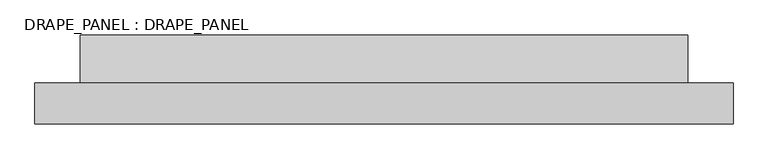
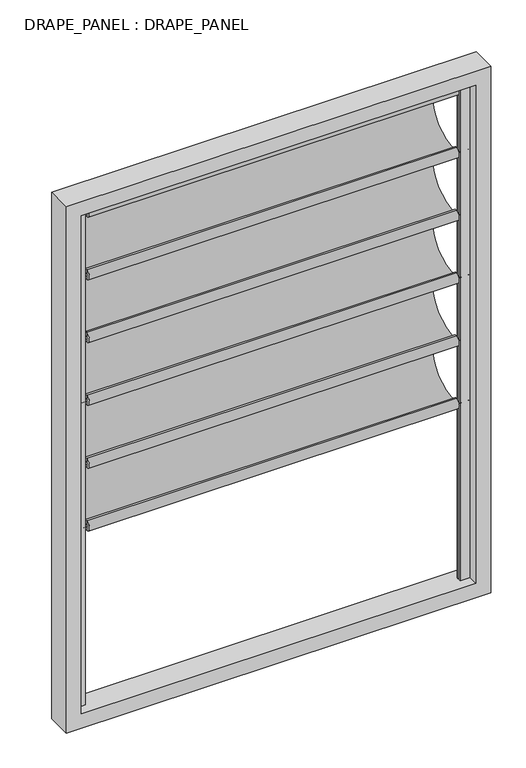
"""IFC4 building model written with IfcOpenShell, lengths in millimetres: plate geometry, DRAPE_PANEL : DRAPE_PANEL."""

from ifc_helpers import new_model, si_unit, point, frame, origin, place, context, project, spatial, polyline, circle_curve, ellipse_curve, trimmed, outline, extrude, source, transform, mapped, element, save
from ifc_brep_helpers import plane_surface, cylinder_surface, extruded_surface, advanced_brep


def drape_panel_drape_panel_c3b9369e(model_context):
    return source(origin(), model_context, "Body", "SolidModel", [
        advanced_brep(
        [(-790.0, 0.0, 1341.5019792), (-790.0, 0.0, 1346.5019792), (-790.0, 0.0, 1336.5019792), (790.0, 0.0, 1336.5019792), (790.0, 0.0, 1346.5019792), (790.0, 0.0, 1341.5019792), (740.0, 0.0, 1336.5019792), (740.0, 0.0, 1346.5019792), (740.0, 0.0, 1321.5019792), (740.0, 0.0, 1361.5019792), (-740.0, 0.0, 1321.5019792), (-740.0, 0.0, 1361.5019792), (-740.0, 0.0, 1336.5019792), (-740.0, 0.0, 1346.5019792)],
        [
            (0, 1),
            (1, 2, circle_curve(frame((-790.0, 0.0, 1341.5019792), z_axis=(-1.0, 0.0, 0.0), x_axis=(0.0, 0.0, 1.0)), 5.0)),
            (2, 0),
            (2, 1, circle_curve(frame((-790.0, 0.0, 1341.5019792), z_axis=(-1.0, 0.0, 0.0), x_axis=(0.0, 0.0, 1.0)), 5.0)),
            (3, 4, circle_curve(frame((790.0, 0.0, 1341.5019792), z_axis=(1.0, 0.0, 0.0), x_axis=(0.0, 0.0, 1.0)), 5.0)),
            (4, 5),
            (5, 3),
            (4, 3, circle_curve(frame((790.0, 0.0, 1341.5019792), z_axis=(1.0, 0.0, 0.0), x_axis=(0.0, 0.0, 1.0)), 5.0)),
            (6, 7, circle_curve(frame((740.0, 0.0, 1341.5019792), z_axis=(1.0, 0.0, 0.0), x_axis=(0.0, 0.0, 1.0)), 5.0)),
            (7, 4),
            (3, 6),
            (7, 6, circle_curve(frame((740.0, 0.0, 1341.5019792), z_axis=(1.0, 0.0, 0.0), x_axis=(0.0, 0.0, 1.0)), 5.0)),
            (8, 9, circle_curve(frame((740.0, 0.0, 1341.5019792), z_axis=(1.0, 0.0, 0.0), x_axis=(0.0, 0.0, 1.0)), 20.0)),
            (9, 7),
            (6, 8),
            (9, 8, circle_curve(frame((740.0, 0.0, 1341.5019792), z_axis=(1.0, 0.0, 0.0), x_axis=(0.0, 0.0, 1.0)), 20.0)),
            (10, 11, circle_curve(frame((-740.0, 0.0, 1341.5019792), z_axis=(1.0, 0.0, 0.0), x_axis=(0.0, 0.0, 1.0)), 20.0)),
            (11, 9),
            (8, 10),
            (11, 10, circle_curve(frame((-740.0, 0.0, 1341.5019792), z_axis=(1.0, 0.0, 0.0), x_axis=(0.0, 0.0, 1.0)), 20.0)),
            (12, 13, circle_curve(frame((-740.0, 0.0, 1341.5019792), z_axis=(1.0, 0.0, 0.0), x_axis=(0.0, 0.0, 1.0)), 5.0)),
            (13, 11),
            (10, 12),
            (13, 12, circle_curve(frame((-740.0, 0.0, 1341.5019792), z_axis=(1.0, 0.0, 0.0), x_axis=(0.0, 0.0, 1.0)), 5.0)),
            (1, 13),
            (12, 2),
        ],
        [
            plane_surface(frame((-790.0, 0.0, 1341.5019792), z_axis=(-1.0, 0.0, 0.0), x_axis=(0.0, 0.0, 1.0))),
            plane_surface(frame((790.0, 0.0, 1341.5019792), z_axis=(1.0, 0.0, 0.0), x_axis=(0.0, 0.0, 1.0))),
            cylinder_surface(frame((6238.8752301, 0.0, 1341.5019792), z_axis=(-1.0, 0.0, 0.0), x_axis=(0.0, 0.0, 1.0)), 5.0),
            plane_surface(frame((740.0, 0.0, 1341.5019792), z_axis=(1.0, 0.0, 0.0), x_axis=(0.0, 0.0, 1.0))),
            cylinder_surface(frame((6238.8752301, 0.0, 1341.5019792), z_axis=(-1.0, 0.0, 0.0), x_axis=(0.0, 0.0, 1.0)), 20.0),
            plane_surface(frame((-740.0, 0.0, 1341.5019792), z_axis=(-1.0, 0.0, 0.0), x_axis=(0.0, 0.0, 1.0))),
        ],
        [
            (0, [[1, 2, 3]]),
            (0, [[-3, 4, -1]]),
            (1, [[5, 6, 7]]),
            (1, [[8, -7, -6]]),
            (2, [[9, 10, -5, 11]]),
            (2, [[12, -11, -8, -10]]),
            (3, [[13, 14, -9, 15]]),
            (3, [[16, -15, -12, -14]]),
            (4, [[17, 18, -13, 19]]),
            (4, [[20, -19, -16, -18]]),
            (5, [[21, 22, -17, 23]]),
            (5, [[24, -23, -20, -22]]),
            (2, [[-2, 25, -21, 26]]),
            (2, [[-4, -26, -24, -25]]),
        ],
    ),
        advanced_brep(
        [(740.0, 0.0, 1341.5019792), (740.0, 0.0, 1338.5019792), (740.0, 0.0, 1078.7509896), (740.0, 0.0, 1075.7509896), (-740.0, 0.0, 1341.5019792), (-740.0, 0.0, 1075.7509896), (-740.0, 0.0, 1078.7509896), (-740.0, 0.0, 1338.5019792)],
        [
            (0, 1),
            (1, 2, ellipse_curve(frame((740.0, 0.0, 1208.6264844), z_axis=(-1.0, 0.0, 0.0), x_axis=(0.0, -1.0, 0.0)), 164.6884972, 129.8754948)),
            (2, 3),
            (3, 0, ellipse_curve(frame((740.0, 0.0, 1208.6264844), z_axis=(1.0, 0.0, 0.0), x_axis=(0.0, 1.0, 0.0)), 167.6884972, 132.8754948)),
            (4, 5, ellipse_curve(frame((-740.0, 0.0, 1208.6264844), z_axis=(-1.0, 0.0, 0.0), x_axis=(0.0, 0.0, -1.0)), 132.8754948, 167.6884972)),
            (5, 6),
            (6, 7, ellipse_curve(frame((-740.0, 0.0, 1208.6264844), z_axis=(1.0, 0.0, 0.0), x_axis=(0.0, 0.0, -1.0)), 129.8754948, 164.6884972)),
            (7, 4),
            (0, 4),
            (7, 1),
            (6, 2),
            (5, 3),
        ],
        [
            plane_surface(frame((740.0, 0.0, 1341.5019792), z_axis=(1.0, 0.0, 0.0), x_axis=(0.0, -1.3265195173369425e-12, -1.0))),
            plane_surface(frame((-740.0, 0.0, 1341.5019792), z_axis=(-1.0, 0.0, 0.0), x_axis=(0.0, 1.3265195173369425e-12, 1.0))),
            plane_surface(frame((740.0, 0.0, 1341.5019792), z_axis=(0.0, -1.0, 1.3265195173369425e-12), x_axis=(-1.0, 0.0, 0.0))),
            extruded_surface(trimmed(ellipse_curve(frame((-2220.0, 0.0, 1208.6264844), z_axis=(-1.0, 0.0, 0.0), x_axis=(0.0, 0.0, -1.0)), 129.8754948, 164.6884972), [point((-2220.0, 0.0, 1338.5019792))], [point((-2220.0, 0.0, 1078.7509896))], True, "CARTESIAN"), (1480.0, 0.0, 0.0), 1480.0),
            plane_surface(frame((740.0, 0.0, 1078.7509896), z_axis=(0.0, -1.0, 0.0), x_axis=(-1.0, 0.0, 0.0))),
            extruded_surface(trimmed(ellipse_curve(frame((-2220.0, 0.0, 1208.6264844), z_axis=(1.0, 0.0, 0.0), x_axis=(0.0, 0.0, -1.0)), 132.8754948, 167.6884972), [point((-2220.0, 0.0, 1075.7509896))], [point((-2220.0, 0.0, 1341.5019792))], True, "CARTESIAN"), (1480.0, 0.0, 0.0), 1480.0),
        ],
        [
            (0, [[1, 2, 3, 4]]),
            (1, [[5, 6, 7, 8]]),
            (2, [[-1, 9, -8, 10]]),
            (3, [[-2, -10, -7, 11]]),
            (4, [[-3, -11, -6, 12]]),
            (5, [[-4, -12, -5, -9]]),
        ],
    ),
        advanced_brep(
        [(-790.0, 0.0, 1607.2529688), (-790.0, 0.0, 1612.2529688), (-790.0, 0.0, 1602.2529688), (790.0, 0.0, 1602.2529688), (790.0, 0.0, 1612.2529688), (790.0, 0.0, 1607.2529688), (740.0, 0.0, 1602.2529688), (740.0, 0.0, 1612.2529688), (740.0, 0.0, 1587.2529688), (740.0, 0.0, 1627.2529688), (-740.0, 0.0, 1587.2529688), (-740.0, 0.0, 1627.2529688), (-740.0, 0.0, 1602.2529688), (-740.0, 0.0, 1612.2529688)],
        [
            (0, 1),
            (1, 2, circle_curve(frame((-790.0, 0.0, 1607.2529688), z_axis=(-1.0, 0.0, 0.0), x_axis=(0.0, 0.0, 1.0)), 5.0)),
            (2, 0),
            (2, 1, circle_curve(frame((-790.0, 0.0, 1607.2529688), z_axis=(-1.0, 0.0, 0.0), x_axis=(0.0, 0.0, 1.0)), 5.0)),
            (3, 4, circle_curve(frame((790.0, 0.0, 1607.2529688), z_axis=(1.0, 0.0, 0.0), x_axis=(0.0, 0.0, 1.0)), 5.0)),
            (4, 5),
            (5, 3),
            (4, 3, circle_curve(frame((790.0, 0.0, 1607.2529688), z_axis=(1.0, 0.0, 0.0), x_axis=(0.0, 0.0, 1.0)), 5.0)),
            (6, 7, circle_curve(frame((740.0, 0.0, 1607.2529688), z_axis=(1.0, 0.0, 0.0), x_axis=(0.0, 0.0, 1.0)), 5.0)),
            (7, 4),
            (3, 6),
            (7, 6, circle_curve(frame((740.0, 0.0, 1607.2529688), z_axis=(1.0, 0.0, 0.0), x_axis=(0.0, 0.0, 1.0)), 5.0)),
            (8, 9, circle_curve(frame((740.0, 0.0, 1607.2529688), z_axis=(1.0, 0.0, 0.0), x_axis=(0.0, 0.0, 1.0)), 20.0)),
            (9, 7),
            (6, 8),
            (9, 8, circle_curve(frame((740.0, 0.0, 1607.2529688), z_axis=(1.0, 0.0, 0.0), x_axis=(0.0, 0.0, 1.0)), 20.0)),
            (10, 11, circle_curve(frame((-740.0, 0.0, 1607.2529688), z_axis=(1.0, 0.0, 0.0), x_axis=(0.0, 0.0, 1.0)), 20.0)),
            (11, 9),
            (8, 10),
            (11, 10, circle_curve(frame((-740.0, 0.0, 1607.2529688), z_axis=(1.0, 0.0, 0.0), x_axis=(0.0, 0.0, 1.0)), 20.0)),
            (12, 13, circle_curve(frame((-740.0, 0.0, 1607.2529688), z_axis=(1.0, 0.0, 0.0), x_axis=(0.0, 0.0, 1.0)), 5.0)),
            (13, 11),
            (10, 12),
            (13, 12, circle_curve(frame((-740.0, 0.0, 1607.2529688), z_axis=(1.0, 0.0, 0.0), x_axis=(0.0, 0.0, 1.0)), 5.0)),
            (1, 13),
            (12, 2),
        ],
        [
            plane_surface(frame((-790.0, 0.0, 1607.2529688), z_axis=(-1.0, 0.0, 0.0), x_axis=(0.0, 0.0, 1.0))),
            plane_surface(frame((790.0, 0.0, 1607.2529688), z_axis=(1.0, 0.0, 0.0), x_axis=(0.0, 0.0, 1.0))),
            cylinder_surface(frame((6238.8752301, 0.0, 1607.2529688), z_axis=(-1.0, 0.0, 0.0), x_axis=(0.0, 0.0, 1.0)), 5.0),
            plane_surface(frame((740.0, 0.0, 1607.2529688), z_axis=(1.0, 0.0, 0.0), x_axis=(0.0, 0.0, 1.0))),
            cylinder_surface(frame((6238.8752301, 0.0, 1607.2529688), z_axis=(-1.0, 0.0, 0.0), x_axis=(0.0, 0.0, 1.0)), 20.0),
            plane_surface(frame((-740.0, 0.0, 1607.2529688), z_axis=(-1.0, 0.0, 0.0), x_axis=(0.0, 0.0, 1.0))),
        ],
        [
            (0, [[1, 2, 3]]),
            (0, [[-3, 4, -1]]),
            (1, [[5, 6, 7]]),
            (1, [[8, -7, -6]]),
            (2, [[9, 10, -5, 11]]),
            (2, [[12, -11, -8, -10]]),
            (3, [[13, 14, -9, 15]]),
            (3, [[16, -15, -12, -14]]),
            (4, [[17, 18, -13, 19]]),
            (4, [[20, -19, -16, -18]]),
            (5, [[21, 22, -17, 23]]),
            (5, [[24, -23, -20, -22]]),
            (2, [[-2, 25, -21, 26]]),
            (2, [[-4, -26, -24, -25]]),
        ],
    ),
        advanced_brep(
        [(740.0, 0.0, 1607.2529688), (740.0, 0.0, 1604.2529688), (740.0, 0.0, 1344.5019792), (740.0, 0.0, 1341.5019792), (-740.0, 0.0, 1607.2529688), (-740.0, 0.0, 1341.5019792), (-740.0, 0.0, 1344.5019792), (-740.0, 0.0, 1604.2529688)],
        [
            (0, 1),
            (1, 2, ellipse_curve(frame((740.0, 0.0, 1474.377474), z_axis=(-1.0, 0.0, 0.0), x_axis=(0.0, -1.0, 0.0)), 164.6884972, 129.8754948)),
            (2, 3),
            (3, 0, ellipse_curve(frame((740.0, 0.0, 1474.377474), z_axis=(1.0, 0.0, 0.0), x_axis=(0.0, 1.0, 0.0)), 167.6884972, 132.8754948)),
            (4, 5, ellipse_curve(frame((-740.0, 0.0, 1474.377474), z_axis=(-1.0, 0.0, 0.0), x_axis=(0.0, 0.0, -1.0)), 132.8754948, 167.6884972)),
            (5, 6),
            (6, 7, ellipse_curve(frame((-740.0, 0.0, 1474.377474), z_axis=(1.0, 0.0, 0.0), x_axis=(0.0, 0.0, -1.0)), 129.8754948, 164.6884972)),
            (7, 4),
            (0, 4),
            (7, 1),
            (6, 2),
            (5, 3),
        ],
        [
            plane_surface(frame((740.0, 0.0, 1607.2529688), z_axis=(1.0, 0.0, 0.0), x_axis=(0.0, -1.3265195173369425e-12, -1.0))),
            plane_surface(frame((-740.0, 0.0, 1607.2529688), z_axis=(-1.0, 0.0, 0.0), x_axis=(0.0, 1.3265195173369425e-12, 1.0))),
            plane_surface(frame((740.0, 0.0, 1607.2529688), z_axis=(0.0, -1.0, 1.3265195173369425e-12), x_axis=(-1.0, 0.0, 0.0))),
            extruded_surface(trimmed(ellipse_curve(frame((-2220.0, 0.0, 1474.377474), z_axis=(-1.0, 0.0, 0.0), x_axis=(0.0, 0.0, -1.0)), 129.8754948, 164.6884972), [point((-2220.0, 0.0, 1604.2529688))], [point((-2220.0, 0.0, 1344.5019792))], True, "CARTESIAN"), (1480.0, 0.0, 0.0), 1480.0),
            plane_surface(frame((740.0, 0.0, 1344.5019792), z_axis=(0.0, -1.0, 0.0), x_axis=(-1.0, 0.0, 0.0))),
            extruded_surface(trimmed(ellipse_curve(frame((-2220.0, 0.0, 1474.377474), z_axis=(1.0, 0.0, 0.0), x_axis=(0.0, 0.0, -1.0)), 132.8754948, 167.6884972), [point((-2220.0, 0.0, 1341.5019792))], [point((-2220.0, 0.0, 1607.2529688))], True, "CARTESIAN"), (1480.0, 0.0, 0.0), 1480.0),
        ],
        [
            (0, [[1, 2, 3, 4]]),
            (1, [[5, 6, 7, 8]]),
            (2, [[-1, 9, -8, 10]]),
            (3, [[-2, -10, -7, 11]]),
            (4, [[-3, -11, -6, 12]]),
            (5, [[-4, -12, -5, -9]]),
        ],
    ),
        advanced_brep(
        [(-790.0, 0.0, 1873.0039583), (-790.0, 0.0, 1878.0039583), (-790.0, 0.0, 1868.0039583), (790.0, 0.0, 1868.0039583), (790.0, 0.0, 1878.0039583), (790.0, 0.0, 1873.0039583), (740.0, 0.0, 1868.0039583), (740.0, 0.0, 1878.0039583), (740.0, 0.0, 1853.0039583), (740.0, 0.0, 1893.0039583), (-740.0, 0.0, 1853.0039583), (-740.0, 0.0, 1893.0039583), (-740.0, 0.0, 1868.0039583), (-740.0, 0.0, 1878.0039583)],
        [
            (0, 1),
            (1, 2, circle_curve(frame((-790.0, 0.0, 1873.0039583), z_axis=(-1.0, 0.0, 0.0), x_axis=(0.0, 0.0, 1.0)), 5.0)),
            (2, 0),
            (2, 1, circle_curve(frame((-790.0, 0.0, 1873.0039583), z_axis=(-1.0, 0.0, 0.0), x_axis=(0.0, 0.0, 1.0)), 5.0)),
            (3, 4, circle_curve(frame((790.0, 0.0, 1873.0039583), z_axis=(1.0, 0.0, 0.0), x_axis=(0.0, 0.0, 1.0)), 5.0)),
            (4, 5),
            (5, 3),
            (4, 3, circle_curve(frame((790.0, 0.0, 1873.0039583), z_axis=(1.0, 0.0, 0.0), x_axis=(0.0, 0.0, 1.0)), 5.0)),
            (6, 7, circle_curve(frame((740.0, 0.0, 1873.0039583), z_axis=(1.0, 0.0, 0.0), x_axis=(0.0, 0.0, 1.0)), 5.0)),
            (7, 4),
            (3, 6),
            (7, 6, circle_curve(frame((740.0, 0.0, 1873.0039583), z_axis=(1.0, 0.0, 0.0), x_axis=(0.0, 0.0, 1.0)), 5.0)),
            (8, 9, circle_curve(frame((740.0, 0.0, 1873.0039583), z_axis=(1.0, 0.0, 0.0), x_axis=(0.0, 0.0, 1.0)), 20.0)),
            (9, 7),
            (6, 8),
            (9, 8, circle_curve(frame((740.0, 0.0, 1873.0039583), z_axis=(1.0, 0.0, 0.0), x_axis=(0.0, 0.0, 1.0)), 20.0)),
            (10, 11, circle_curve(frame((-740.0, 0.0, 1873.0039583), z_axis=(1.0, 0.0, 0.0), x_axis=(0.0, 0.0, 1.0)), 20.0)),
            (11, 9),
            (8, 10),
            (11, 10, circle_curve(frame((-740.0, 0.0, 1873.0039583), z_axis=(1.0, 0.0, 0.0), x_axis=(0.0, 0.0, 1.0)), 20.0)),
            (12, 13, circle_curve(frame((-740.0, 0.0, 1873.0039583), z_axis=(1.0, 0.0, 0.0), x_axis=(0.0, 0.0, 1.0)), 5.0)),
            (13, 11),
            (10, 12),
            (13, 12, circle_curve(frame((-740.0, 0.0, 1873.0039583), z_axis=(1.0, 0.0, 0.0), x_axis=(0.0, 0.0, 1.0)), 5.0)),
            (1, 13),
            (12, 2),
        ],
        [
            plane_surface(frame((-790.0, 0.0, 1873.0039583), z_axis=(-1.0, 0.0, 0.0), x_axis=(0.0, 0.0, 1.0))),
            plane_surface(frame((790.0, 0.0, 1873.0039583), z_axis=(1.0, 0.0, 0.0), x_axis=(0.0, 0.0, 1.0))),
            cylinder_surface(frame((6238.8752301, 0.0, 1873.0039583), z_axis=(-1.0, 0.0, 0.0), x_axis=(0.0, 0.0, 1.0)), 5.0),
            plane_surface(frame((740.0, 0.0, 1873.0039583), z_axis=(1.0, 0.0, 0.0), x_axis=(0.0, 0.0, 1.0))),
            cylinder_surface(frame((6238.8752301, 0.0, 1873.0039583), z_axis=(-1.0, 0.0, 0.0), x_axis=(0.0, 0.0, 1.0)), 20.0),
            plane_surface(frame((-740.0, 0.0, 1873.0039583), z_axis=(-1.0, 0.0, 0.0), x_axis=(0.0, 0.0, 1.0))),
        ],
        [
            (0, [[1, 2, 3]]),
            (0, [[-3, 4, -1]]),
            (1, [[5, 6, 7]]),
            (1, [[8, -7, -6]]),
            (2, [[9, 10, -5, 11]]),
            (2, [[12, -11, -8, -10]]),
            (3, [[13, 14, -9, 15]]),
            (3, [[16, -15, -12, -14]]),
            (4, [[17, 18, -13, 19]]),
            (4, [[20, -19, -16, -18]]),
            (5, [[21, 22, -17, 23]]),
            (5, [[24, -23, -20, -22]]),
            (2, [[-2, 25, -21, 26]]),
            (2, [[-4, -26, -24, -25]]),
        ],
    ),
        advanced_brep(
        [(740.0, 0.0, 1873.0039583), (740.0, 0.0, 1870.0039583), (740.0, 0.0, 1610.2529688), (740.0, 0.0, 1607.2529688), (-740.0, 0.0, 1873.0039583), (-740.0, 0.0, 1607.2529688), (-740.0, 0.0, 1610.2529687), (-740.0, 0.0, 1870.0039583)],
        [
            (0, 1),
            (1, 2, ellipse_curve(frame((740.0, 0.0, 1740.1284635), z_axis=(-1.0, 0.0, 0.0), x_axis=(0.0, -1.0, 0.0)), 164.6884972, 129.8754948)),
            (2, 3),
            (3, 0, ellipse_curve(frame((740.0, 0.0, 1740.1284635), z_axis=(1.0, 0.0, 0.0), x_axis=(0.0, 1.0, 0.0)), 167.6884972, 132.8754948)),
            (4, 5, ellipse_curve(frame((-740.0, 0.0, 1740.1284635), z_axis=(-1.0, 0.0, 0.0), x_axis=(0.0, 0.0, -1.0)), 132.8754948, 167.6884972)),
            (5, 6),
            (6, 7, ellipse_curve(frame((-740.0, 0.0, 1740.1284635), z_axis=(1.0, 0.0, 0.0), x_axis=(0.0, 0.0, -1.0)), 129.8754948, 164.6884972)),
            (7, 4),
            (0, 4),
            (7, 1),
            (6, 2),
            (5, 3),
        ],
        [
            plane_surface(frame((740.0, 0.0, 1873.0039583), z_axis=(1.0, 0.0, 0.0), x_axis=(0.0, -1.3265195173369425e-12, -1.0))),
            plane_surface(frame((-740.0, 0.0, 1873.0039583), z_axis=(-1.0, 0.0, 0.0), x_axis=(0.0, 1.3265195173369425e-12, 1.0))),
            plane_surface(frame((740.0, 0.0, 1873.0039583), z_axis=(0.0, -1.0, 1.3265195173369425e-12), x_axis=(-1.0, 0.0, 0.0))),
            extruded_surface(trimmed(ellipse_curve(frame((-2220.0, 0.0, 1740.1284635), z_axis=(-1.0, 0.0, 0.0), x_axis=(0.0, 0.0, -1.0)), 129.8754948, 164.6884972), [point((-2220.0, 0.0, 1870.0039583))], [point((-2220.0, 0.0, 1610.2529687))], True, "CARTESIAN"), (1480.0, 0.0, 0.0), 1480.0),
            plane_surface(frame((740.0, 0.0, 1610.2529688), z_axis=(0.0, -1.0, 0.0), x_axis=(-1.0, 0.0, 0.0))),
            extruded_surface(trimmed(ellipse_curve(frame((-2220.0, 0.0, 1740.1284635), z_axis=(1.0, 0.0, 0.0), x_axis=(0.0, 0.0, -1.0)), 132.8754948, 167.6884972), [point((-2220.0, 0.0, 1607.2529688))], [point((-2220.0, 0.0, 1873.0039583))], True, "CARTESIAN"), (1480.0, 0.0, 0.0), 1480.0),
        ],
        [
            (0, [[1, 2, 3, 4]]),
            (1, [[5, 6, 7, 8]]),
            (2, [[-1, 9, -8, 10]]),
            (3, [[-2, -10, -7, 11]]),
            (4, [[-3, -11, -6, 12]]),
            (5, [[-4, -12, -5, -9]]),
        ],
    ),
        advanced_brep(
        [(-790.0, 0.0, 1075.7509896), (-790.0, 0.0, 1080.7509896), (-790.0, 0.0, 1070.7509896), (790.0, 0.0, 1070.7509896), (790.0, 0.0, 1080.7509896), (790.0, 0.0, 1075.7509896), (740.0, 0.0, 1070.7509896), (740.0, 0.0, 1080.7509896), (740.0, 0.0, 1055.7509896), (740.0, 0.0, 1095.7509896), (-740.0, 0.0, 1055.7509896), (-740.0, 0.0, 1095.7509896), (-740.0, 0.0, 1070.7509896), (-740.0, 0.0, 1080.7509896)],
        [
            (0, 1),
            (1, 2, circle_curve(frame((-790.0, 0.0, 1075.7509896), z_axis=(-1.0, 0.0, 0.0), x_axis=(0.0, 0.0, 1.0)), 5.0)),
            (2, 0),
            (2, 1, circle_curve(frame((-790.0, 0.0, 1075.7509896), z_axis=(-1.0, 0.0, 0.0), x_axis=(0.0, 0.0, 1.0)), 5.0)),
            (3, 4, circle_curve(frame((790.0, 0.0, 1075.7509896), z_axis=(1.0, 0.0, 0.0), x_axis=(0.0, 0.0, 1.0)), 5.0)),
            (4, 5),
            (5, 3),
            (4, 3, circle_curve(frame((790.0, 0.0, 1075.7509896), z_axis=(1.0, 0.0, 0.0), x_axis=(0.0, 0.0, 1.0)), 5.0)),
            (6, 7, circle_curve(frame((740.0, 0.0, 1075.7509896), z_axis=(1.0, 0.0, 0.0), x_axis=(0.0, 0.0, 1.0)), 5.0)),
            (7, 4),
            (3, 6),
            (7, 6, circle_curve(frame((740.0, 0.0, 1075.7509896), z_axis=(1.0, 0.0, 0.0), x_axis=(0.0, 0.0, 1.0)), 5.0)),
            (8, 9, circle_curve(frame((740.0, 0.0, 1075.7509896), z_axis=(1.0, 0.0, 0.0), x_axis=(0.0, 0.0, 1.0)), 20.0)),
            (9, 7),
            (6, 8),
            (9, 8, circle_curve(frame((740.0, 0.0, 1075.7509896), z_axis=(1.0, 0.0, 0.0), x_axis=(0.0, 0.0, 1.0)), 20.0)),
            (10, 11, circle_curve(frame((-740.0, 0.0, 1075.7509896), z_axis=(1.0, 0.0, 0.0), x_axis=(0.0, 0.0, 1.0)), 20.0)),
            (11, 9),
            (8, 10),
            (11, 10, circle_curve(frame((-740.0, 0.0, 1075.7509896), z_axis=(1.0, 0.0, 0.0), x_axis=(0.0, 0.0, 1.0)), 20.0)),
            (12, 13, circle_curve(frame((-740.0, 0.0, 1075.7509896), z_axis=(1.0, 0.0, 0.0), x_axis=(0.0, 0.0, 1.0)), 5.0)),
            (13, 11),
            (10, 12),
            (13, 12, circle_curve(frame((-740.0, 0.0, 1075.7509896), z_axis=(1.0, 0.0, 0.0), x_axis=(0.0, 0.0, 1.0)), 5.0)),
            (1, 13),
            (12, 2),
        ],
        [
            plane_surface(frame((-790.0, 0.0, 1075.7509896), z_axis=(-1.0, 0.0, 0.0), x_axis=(0.0, 0.0, 1.0))),
            plane_surface(frame((790.0, 0.0, 1075.7509896), z_axis=(1.0, 0.0, 0.0), x_axis=(0.0, 0.0, 1.0))),
            cylinder_surface(frame((6238.8752301, 0.0, 1075.7509896), z_axis=(-1.0, 0.0, 0.0), x_axis=(0.0, 0.0, 1.0)), 5.0),
            plane_surface(frame((740.0, 0.0, 1075.7509896), z_axis=(1.0, 0.0, 0.0), x_axis=(0.0, 0.0, 1.0))),
            cylinder_surface(frame((6238.8752301, 0.0, 1075.7509896), z_axis=(-1.0, 0.0, 0.0), x_axis=(0.0, 0.0, 1.0)), 20.0),
            plane_surface(frame((-740.0, 0.0, 1075.7509896), z_axis=(-1.0, 0.0, 0.0), x_axis=(0.0, 0.0, 1.0))),
        ],
        [
            (0, [[1, 2, 3]]),
            (0, [[-3, 4, -1]]),
            (1, [[5, 6, 7]]),
            (1, [[8, -7, -6]]),
            (2, [[9, 10, -5, 11]]),
            (2, [[12, -11, -8, -10]]),
            (3, [[13, 14, -9, 15]]),
            (3, [[16, -15, -12, -14]]),
            (4, [[17, 18, -13, 19]]),
            (4, [[20, -19, -16, -18]]),
            (5, [[21, 22, -17, 23]]),
            (5, [[24, -23, -20, -22]]),
            (2, [[-2, 25, -21, 26]]),
            (2, [[-4, -26, -24, -25]]),
        ],
    ),
        advanced_brep(
        [(740.0, 0.0, 1075.7509896), (740.0, 0.0, 1072.7509896), (740.0, 0.0, 813.0), (740.0, 0.0, 810.0), (-740.0, 0.0, 1075.7509896), (-740.0, 0.0, 810.0), (-740.0, 0.0, 813.0), (-740.0, 0.0, 1072.7509896)],
        [
            (0, 1),
            (1, 2, ellipse_curve(frame((740.0, 0.0, 942.8754948), z_axis=(-1.0, 0.0, 0.0), x_axis=(0.0, -1.0, 0.0)), 164.6884972, 129.8754948)),
            (2, 3),
            (3, 0, ellipse_curve(frame((740.0, 0.0, 942.8754948), z_axis=(1.0, 0.0, 0.0), x_axis=(0.0, 1.0, 0.0)), 167.6884972, 132.8754948)),
            (4, 5, ellipse_curve(frame((-740.0, 0.0, 942.8754948), z_axis=(-1.0, 0.0, 0.0), x_axis=(0.0, 0.0, -1.0)), 132.8754948, 167.6884972)),
            (5, 6),
            (6, 7, ellipse_curve(frame((-740.0, 0.0, 942.8754948), z_axis=(1.0, 0.0, 0.0), x_axis=(0.0, 0.0, -1.0)), 129.8754948, 164.6884972)),
            (7, 4),
            (0, 4),
            (7, 1),
            (6, 2),
            (5, 3),
        ],
        [
            plane_surface(frame((740.0, 0.0, 1075.7509896), z_axis=(1.0, 0.0, 0.0), x_axis=(0.0, -1.3265195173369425e-12, -1.0))),
            plane_surface(frame((-740.0, 0.0, 1075.7509896), z_axis=(-1.0, 0.0, 0.0), x_axis=(0.0, 1.3265195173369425e-12, 1.0))),
            plane_surface(frame((740.0, 0.0, 1075.7509896), z_axis=(0.0, -1.0, 1.3265195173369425e-12), x_axis=(-1.0, 0.0, 0.0))),
            extruded_surface(trimmed(ellipse_curve(frame((-2220.0, 0.0, 942.8754948), z_axis=(-1.0, 0.0, 0.0), x_axis=(0.0, 0.0, -1.0)), 129.8754948, 164.6884972), [point((-2220.0, 0.0, 1072.7509896))], [point((-2220.0, 0.0, 813.0))], True, "CARTESIAN"), (1480.0, 0.0, 0.0), 1480.0),
            plane_surface(frame((740.0, 0.0, 813.0), z_axis=(0.0, -1.0, 0.0), x_axis=(-1.0, 0.0, 0.0))),
            extruded_surface(trimmed(ellipse_curve(frame((-2220.0, 0.0, 942.8754948), z_axis=(1.0, 0.0, 0.0), x_axis=(0.0, 0.0, -1.0)), 132.8754948, 167.6884972), [point((-2220.0, 0.0, 810.0))], [point((-2220.0, 0.0, 1075.7509896))], True, "CARTESIAN"), (1480.0, 0.0, 0.0), 1480.0),
        ],
        [
            (0, [[1, 2, 3, 4]]),
            (1, [[5, 6, 7, 8]]),
            (2, [[-1, 9, -8, 10]]),
            (3, [[-2, -10, -7, 11]]),
            (4, [[-3, -11, -6, 12]]),
            (5, [[-4, -12, -5, -9]]),
        ],
    ),
        advanced_brep(
        [(-790.0, 0.0, 2138.7549479), (-790.0, 0.0, 2143.7549479), (-790.0, 0.0, 2133.7549479), (790.0, 0.0, 2133.7549479), (790.0, 0.0, 2143.7549479), (790.0, 0.0, 2138.7549479), (740.0, 0.0, 2133.7549479), (740.0, 0.0, 2143.7549479), (740.0, 0.0, 2118.7549479), (740.0, 0.0, 2158.7549479), (-740.0, 0.0, 2118.7549479), (-740.0, 0.0, 2158.7549479), (-740.0, 0.0, 2133.7549479), (-740.0, 0.0, 2143.7549479)],
        [
            (0, 1),
            (1, 2, circle_curve(frame((-790.0, 0.0, 2138.7549479), z_axis=(-1.0, 0.0, 0.0), x_axis=(0.0, 0.0, 1.0)), 5.0)),
            (2, 0),
            (2, 1, circle_curve(frame((-790.0, 0.0, 2138.7549479), z_axis=(-1.0, 0.0, 0.0), x_axis=(0.0, 0.0, 1.0)), 5.0)),
            (3, 4, circle_curve(frame((790.0, 0.0, 2138.7549479), z_axis=(1.0, 0.0, 0.0), x_axis=(0.0, 0.0, 1.0)), 5.0)),
            (4, 5),
            (5, 3),
            (4, 3, circle_curve(frame((790.0, 0.0, 2138.7549479), z_axis=(1.0, 0.0, 0.0), x_axis=(0.0, 0.0, 1.0)), 5.0)),
            (6, 7, circle_curve(frame((740.0, 0.0, 2138.7549479), z_axis=(1.0, 0.0, 0.0), x_axis=(0.0, 0.0, 1.0)), 5.0)),
            (7, 4),
            (3, 6),
            (7, 6, circle_curve(frame((740.0, 0.0, 2138.7549479), z_axis=(1.0, 0.0, 0.0), x_axis=(0.0, 0.0, 1.0)), 5.0)),
            (8, 9, circle_curve(frame((740.0, 0.0, 2138.7549479), z_axis=(1.0, 0.0, 0.0), x_axis=(0.0, 0.0, 1.0)), 20.0)),
            (9, 7),
            (6, 8),
            (9, 8, circle_curve(frame((740.0, 0.0, 2138.7549479), z_axis=(1.0, 0.0, 0.0), x_axis=(0.0, 0.0, 1.0)), 20.0)),
            (10, 11, circle_curve(frame((-740.0, 0.0, 2138.7549479), z_axis=(1.0, 0.0, 0.0), x_axis=(0.0, 0.0, 1.0)), 20.0)),
            (11, 9),
            (8, 10),
            (11, 10, circle_curve(frame((-740.0, 0.0, 2138.7549479), z_axis=(1.0, 0.0, 0.0), x_axis=(0.0, 0.0, 1.0)), 20.0)),
            (12, 13, circle_curve(frame((-740.0, 0.0, 2138.7549479), z_axis=(1.0, 0.0, 0.0), x_axis=(0.0, 0.0, 1.0)), 5.0)),
            (13, 11),
            (10, 12),
            (13, 12, circle_curve(frame((-740.0, 0.0, 2138.7549479), z_axis=(1.0, 0.0, 0.0), x_axis=(0.0, 0.0, 1.0)), 5.0)),
            (1, 13),
            (12, 2),
        ],
        [
            plane_surface(frame((-790.0, 0.0, 2138.7549479), z_axis=(-1.0, 0.0, 0.0), x_axis=(0.0, 0.0, 1.0))),
            plane_surface(frame((790.0, 0.0, 2138.7549479), z_axis=(1.0, 0.0, 0.0), x_axis=(0.0, 0.0, 1.0))),
            cylinder_surface(frame((6238.8752301, 0.0, 2138.7549479), z_axis=(-1.0, 0.0, 0.0), x_axis=(0.0, 0.0, 1.0)), 5.0),
            plane_surface(frame((740.0, 0.0, 2138.7549479), z_axis=(1.0, 0.0, 0.0), x_axis=(0.0, 0.0, 1.0))),
            cylinder_surface(frame((6238.8752301, 0.0, 2138.7549479), z_axis=(-1.0, 0.0, 0.0), x_axis=(0.0, 0.0, 1.0)), 20.0),
            plane_surface(frame((-740.0, 0.0, 2138.7549479), z_axis=(-1.0, 0.0, 0.0), x_axis=(0.0, 0.0, 1.0))),
        ],
        [
            (0, [[1, 2, 3]]),
            (0, [[-3, 4, -1]]),
            (1, [[5, 6, 7]]),
            (1, [[8, -7, -6]]),
            (2, [[9, 10, -5, 11]]),
            (2, [[12, -11, -8, -10]]),
            (3, [[13, 14, -9, 15]]),
            (3, [[16, -15, -12, -14]]),
            (4, [[17, 18, -13, 19]]),
            (4, [[20, -19, -16, -18]]),
            (5, [[21, 22, -17, 23]]),
            (5, [[24, -23, -20, -22]]),
            (2, [[-2, 25, -21, 26]]),
            (2, [[-4, -26, -24, -25]]),
        ],
    ),
        advanced_brep(
        [(740.0, 0.0, 2138.7549479), (740.0, 0.0, 2135.7549479), (740.0, 0.0, 1876.0039583), (740.0, 0.0, 1873.0039583), (-740.0, 0.0, 2138.7549479), (-740.0, 0.0, 1873.0039583), (-740.0, 0.0, 1876.0039583), (-740.0, 0.0, 2135.7549479)],
        [
            (0, 1),
            (1, 2, ellipse_curve(frame((740.0, 0.0, 2005.8794531), z_axis=(-1.0, 0.0, 0.0), x_axis=(0.0, -1.0, 0.0)), 164.6884972, 129.8754948)),
            (2, 3),
            (3, 0, ellipse_curve(frame((740.0, 0.0, 2005.8794531), z_axis=(1.0, 0.0, 0.0), x_axis=(0.0, 1.0, 0.0)), 167.6884972, 132.8754948)),
            (4, 5, ellipse_curve(frame((-740.0, 0.0, 2005.8794531), z_axis=(-1.0, 0.0, 0.0), x_axis=(0.0, 0.0, -1.0)), 132.8754948, 167.6884972)),
            (5, 6),
            (6, 7, ellipse_curve(frame((-740.0, 0.0, 2005.8794531), z_axis=(1.0, 0.0, 0.0), x_axis=(0.0, 0.0, -1.0)), 129.8754948, 164.6884972)),
            (7, 4),
            (0, 4),
            (7, 1),
            (6, 2),
            (5, 3),
        ],
        [
            plane_surface(frame((740.0, 0.0, 2138.7549479), z_axis=(1.0, 0.0, 0.0), x_axis=(0.0, -1.3265195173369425e-12, -1.0))),
            plane_surface(frame((-740.0, 0.0, 2138.7549479), z_axis=(-1.0, 0.0, 0.0), x_axis=(0.0, 1.3265195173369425e-12, 1.0))),
            plane_surface(frame((740.0, 0.0, 2138.7549479), z_axis=(0.0, -1.0, 1.3265195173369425e-12), x_axis=(-1.0, 0.0, 0.0))),
            extruded_surface(trimmed(ellipse_curve(frame((-2220.0, 0.0, 2005.8794531), z_axis=(-1.0, 0.0, 0.0), x_axis=(0.0, 0.0, -1.0)), 129.8754948, 164.6884972), [point((-2220.0, 0.0, 2135.7549479))], [point((-2220.0, 0.0, 1876.0039583))], True, "CARTESIAN"), (1480.0, 0.0, 0.0), 1480.0),
            plane_surface(frame((740.0, 0.0, 1876.0039583), z_axis=(0.0, -1.0, 0.0), x_axis=(-1.0, 0.0, 0.0))),
            extruded_surface(trimmed(ellipse_curve(frame((-2220.0, 0.0, 2005.8794531), z_axis=(1.0, 0.0, 0.0), x_axis=(0.0, 0.0, -1.0)), 132.8754948, 167.6884972), [point((-2220.0, 0.0, 1873.0039583))], [point((-2220.0, 0.0, 2138.7549479))], True, "CARTESIAN"), (1480.0, 0.0, 0.0), 1480.0),
        ],
        [
            (0, [[1, 2, 3, 4]]),
            (1, [[5, 6, 7, 8]]),
            (2, [[-1, 9, -8, 10]]),
            (3, [[-2, -10, -7, 11]]),
            (4, [[-3, -11, -6, 12]]),
            (5, [[-4, -12, -5, -9]]),
        ],
    ),
        extrude(outline(polyline([(750.0, 5.0), (750.0, 10.0), (790.0, 10.0), (790.0, -10.0), (750.0, -10.0), (750.0, -5.0), (785.0, -5.0), (785.0, 5.0), (750.0, 5.0)])), frame((0.0, 0.0, 60.0), z_axis=(0.0, 0.0, 1.0), x_axis=(1.0, 0.0, 0.0)), (0.0, 0.0, 1.0), 2108.7549479),
        extrude(outline(polyline([(-750.0, 5.0), (-785.0, 5.0), (-785.0, -5.0), (-750.0, -5.0), (-750.0, -10.0), (-790.0, -10.0), (-790.0, 10.0), (-750.0, 10.0), (-750.0, 5.0)])), frame((0.0, 0.0, 60.0), z_axis=(0.0, 0.0, 1.0), x_axis=(1.0, 0.0, 0.0)), (0.0, 0.0, 1.0), 2108.7549479),
        advanced_brep(
        [(740.0, 0.0, 805.0), (740.0, 0.0, 815.0), (790.0, 0.0, 815.0), (790.0, 0.0, 805.0), (740.0, 0.0, 790.0), (740.0, 0.0, 830.0), (-740.0, 0.0, 790.0), (-740.0, 0.0, 830.0), (-740.0, 0.0, 805.0), (-740.0, 0.0, 815.0), (-790.0, 0.0, 805.0), (-790.0, 0.0, 815.0), (-790.0, 0.0, 810.0), (790.0, 0.0, 810.0)],
        [
            (0, 1, circle_curve(frame((740.0, 0.0, 810.0), z_axis=(1.0, 0.0, 0.0), x_axis=(0.0, 0.0, 1.0)), 5.0)),
            (1, 2),
            (2, 3, circle_curve(frame((790.0, 0.0, 810.0), z_axis=(-1.0, 0.0, 0.0), x_axis=(0.0, 0.0, 1.0)), 5.0)),
            (3, 0),
            (1, 0, circle_curve(frame((740.0, 0.0, 810.0), z_axis=(1.0, 0.0, 0.0), x_axis=(0.0, 0.0, 1.0)), 5.0)),
            (3, 2, circle_curve(frame((790.0, 0.0, 810.0), z_axis=(-1.0, 0.0, 0.0), x_axis=(0.0, 0.0, 1.0)), 5.0)),
            (4, 5, circle_curve(frame((740.0, 0.0, 810.0), z_axis=(1.0, 0.0, 0.0), x_axis=(0.0, 0.0, 1.0)), 20.0)),
            (5, 1),
            (0, 4),
            (5, 4, circle_curve(frame((740.0, 0.0, 810.0), z_axis=(1.0, 0.0, 0.0), x_axis=(0.0, 0.0, 1.0)), 20.0)),
            (6, 7, circle_curve(frame((-740.0, 0.0, 810.0), z_axis=(1.0, 0.0, 0.0), x_axis=(0.0, 0.0, 1.0)), 20.0)),
            (7, 5),
            (4, 6),
            (7, 6, circle_curve(frame((-740.0, 0.0, 810.0), z_axis=(1.0, 0.0, 0.0), x_axis=(0.0, 0.0, 1.0)), 20.0)),
            (8, 9, circle_curve(frame((-740.0, 0.0, 810.0), z_axis=(1.0, 0.0, 0.0), x_axis=(0.0, 0.0, 1.0)), 5.0)),
            (9, 7),
            (6, 8),
            (9, 8, circle_curve(frame((-740.0, 0.0, 810.0), z_axis=(1.0, 0.0, 0.0), x_axis=(0.0, 0.0, 1.0)), 5.0)),
            (10, 11, circle_curve(frame((-790.0, 0.0, 810.0), z_axis=(1.0, 0.0, 0.0), x_axis=(0.0, 0.0, 1.0)), 5.0)),
            (11, 9),
            (8, 10),
            (11, 10, circle_curve(frame((-790.0, 0.0, 810.0), z_axis=(1.0, 0.0, 0.0), x_axis=(0.0, 0.0, 1.0)), 5.0)),
            (12, 11),
            (10, 12),
            (2, 13),
            (13, 3),
        ],
        [
            cylinder_surface(frame((9550.0, 0.0, 810.0), z_axis=(-1.0, 0.0, 0.0), x_axis=(0.0, 0.0, 1.0)), 5.0),
            plane_surface(frame((740.0, 0.0, 810.0), z_axis=(1.0, 0.0, 0.0), x_axis=(0.0, 0.0, 1.0))),
            cylinder_surface(frame((9550.0, 0.0, 810.0), z_axis=(-1.0, 0.0, 0.0), x_axis=(0.0, 0.0, 1.0)), 20.0),
            plane_surface(frame((-740.0, 0.0, 810.0), z_axis=(-1.0, 0.0, 0.0), x_axis=(0.0, 0.0, 1.0))),
            plane_surface(frame((-790.0, 0.0, 810.0), z_axis=(-1.0, 0.0, 0.0), x_axis=(0.0, 0.0, 1.0))),
            plane_surface(frame((790.0, 0.0, 810.0), z_axis=(1.0, 0.0, 0.0), x_axis=(0.0, 0.0, 1.0))),
        ],
        [
            (0, [[1, 2, 3, 4]]),
            (0, [[5, -4, 6, -2]]),
            (1, [[7, 8, -1, 9]]),
            (1, [[10, -9, -5, -8]]),
            (2, [[11, 12, -7, 13]]),
            (2, [[14, -13, -10, -12]]),
            (3, [[15, 16, -11, 17]]),
            (3, [[18, -17, -14, -16]]),
            (0, [[19, 20, -15, 21]]),
            (0, [[22, -21, -18, -20]]),
            (4, [[23, -19, 24]]),
            (4, [[-24, -22, -23]]),
            (5, [[-3, 25, 26]]),
            (5, [[-6, -26, -25]]),
        ],
    ),
        extrude(outline(polyline([(2228.7549479, -850.0), (0.0, -850.0), (0.0, 850.0), (2228.7549479, 850.0), (2228.7549479, -850.0)]), holes=[polyline([(2168.7549479, -790.0), (2168.7549479, 790.0), (60.0, 790.0), (60.0, -790.0), (2168.7549479, -790.0)])]), frame((0.0, -50.0, 0.0), z_axis=(0.0, 1.0, 0.0), x_axis=(0.0, 0.0, 1.0)), (0.0, 0.0, 1.0), 100.0),
    ])


if __name__ == "__main__":
    model = new_model("IFC4")
    model_context = context("Model", 3, world=origin())
    ifc_project = project(units=[si_unit("LENGTHUNIT", "METRE", prefix="MILLI")], contexts=[model_context])
    site = spatial("IfcSite", under=ifc_project)
    building = spatial("IfcBuilding", under=site)
    placement = place(None, origin())
    drape_panel_drape_panel_shape = drape_panel_drape_panel_c3b9369e(model_context)
    element("IfcPlate", 1, ObjectType="DRAPE_PANEL : DRAPE_PANEL", at=placement, inside=building, context=model_context, shape_type="MappedRepresentation", body=[
        mapped(drape_panel_drape_panel_shape, transform((0.0, 0.0, 0.0), x_axis=(1.0, 0.0, 0.0), y_axis=(0.0, 1.0, 0.0), z_axis=(0.0, 0.0, 1.0))),
    ])
    save(model, "model.ifc")
